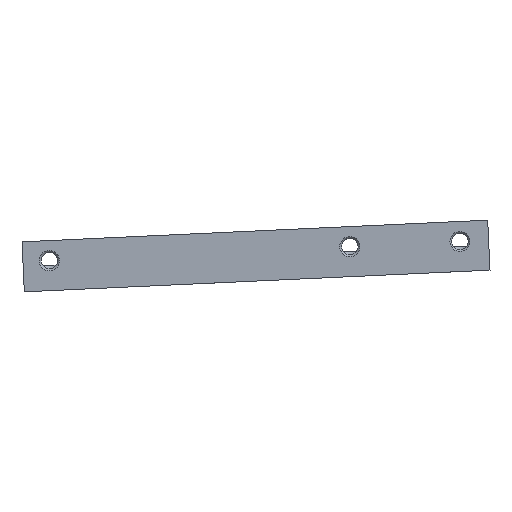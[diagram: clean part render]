
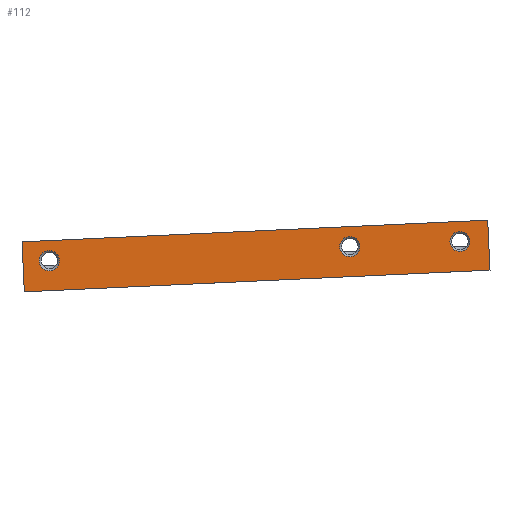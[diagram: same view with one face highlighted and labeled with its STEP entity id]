
A CAD part, left-side view. The second image highlights one B-rep face of the part: STEP entity #112.
In plain terms, the highlighted planar face has unit normal (-1, 0, 0).
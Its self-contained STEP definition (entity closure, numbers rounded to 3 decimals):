
#74=FACE_BOUND('',#185,.T.);
#75=FACE_BOUND('',#186,.T.);
#76=FACE_BOUND('',#187,.T.);
#77=FACE_BOUND('',#188,.T.);
#112=ADVANCED_FACE('',(#74,#75,#76,#77),#148,.F.);
#148=PLANE('',#683);
#185=EDGE_LOOP('',(#367));
#186=EDGE_LOOP('',(#368));
#187=EDGE_LOOP('',(#369));
#188=EDGE_LOOP('',(#370,#371,#372,#373));
#251=LINE('',#970,#297);
#256=LINE('',#986,#302);
#258=LINE('',#995,#304);
#259=LINE('',#997,#305);
#297=VECTOR('',#772,1.);
#302=VECTOR('',#787,1.);
#304=VECTOR('',#797,1.);
#305=VECTOR('',#798,1.);
#367=ORIENTED_EDGE('',*,*,#583,.T.);
#368=ORIENTED_EDGE('',*,*,#584,.T.);
#369=ORIENTED_EDGE('',*,*,#585,.T.);
#370=ORIENTED_EDGE('',*,*,#581,.F.);
#371=ORIENTED_EDGE('',*,*,#586,.F.);
#372=ORIENTED_EDGE('',*,*,#587,.T.);
#373=ORIENTED_EDGE('',*,*,#573,.T.);
#514=VERTEX_POINT('',#967);
#515=VERTEX_POINT('',#969);
#521=VERTEX_POINT('',#985);
#522=VERTEX_POINT('',#990);
#523=VERTEX_POINT('',#992);
#524=VERTEX_POINT('',#994);
#525=VERTEX_POINT('',#996);
#573=EDGE_CURVE('',#514,#515,#251,.T.);
#581=EDGE_CURVE('',#521,#515,#256,.T.);
#583=EDGE_CURVE('',#522,#522,#641,.T.);
#584=EDGE_CURVE('',#523,#523,#642,.T.);
#585=EDGE_CURVE('',#524,#524,#643,.T.);
#586=EDGE_CURVE('',#525,#521,#258,.T.);
#587=EDGE_CURVE('',#525,#514,#259,.T.);
#641=CIRCLE('',#680,2.);
#642=CIRCLE('',#681,2.);
#643=CIRCLE('',#682,2.);
#680=AXIS2_PLACEMENT_3D('',#989,#791,#792);
#681=AXIS2_PLACEMENT_3D('',#991,#793,#794);
#682=AXIS2_PLACEMENT_3D('',#993,#795,#796);
#683=AXIS2_PLACEMENT_3D('',#998,#799,#800);
#772=DIRECTION('',(0.,0.999,-0.046));
#787=DIRECTION('',(0.,0.046,0.999));
#791=DIRECTION('',(1.,0.,0.));
#792=DIRECTION('',(0.,0.,-1.));
#793=DIRECTION('',(1.,0.,0.));
#794=DIRECTION('',(0.,0.,-1.));
#795=DIRECTION('',(1.,0.,0.));
#796=DIRECTION('',(0.,0.,-1.));
#797=DIRECTION('',(0.,0.999,-0.046));
#798=DIRECTION('',(0.,0.046,0.999));
#799=DIRECTION('',(1.,0.,0.));
#800=DIRECTION('',(0.,-0.999,0.046));
#967=CARTESIAN_POINT('',(-35.355,-31.,37.044));
#969=CARTESIAN_POINT('',(-35.355,62.005,32.72));
#970=CARTESIAN_POINT('',(-35.355,25.958,34.396));
#985=CARTESIAN_POINT('',(-35.355,61.541,22.731));
#986=CARTESIAN_POINT('',(-35.355,61.541,22.731));
#989=CARTESIAN_POINT('',(-35.355,56.536,28.97));
#990=CARTESIAN_POINT('',(-35.355,56.536,26.97));
#991=CARTESIAN_POINT('',(-35.355,-3.464,31.759));
#992=CARTESIAN_POINT('',(-35.355,-3.464,29.759));
#993=CARTESIAN_POINT('',(-35.355,-25.464,32.782));
#994=CARTESIAN_POINT('',(-35.355,-25.464,30.782));
#995=CARTESIAN_POINT('',(-35.355,25.494,24.407));
#996=CARTESIAN_POINT('',(-35.355,-31.464,27.054));
#997=CARTESIAN_POINT('',(-35.355,-31.464,27.054));
#998=CARTESIAN_POINT('',(-35.355,25.494,24.407));
